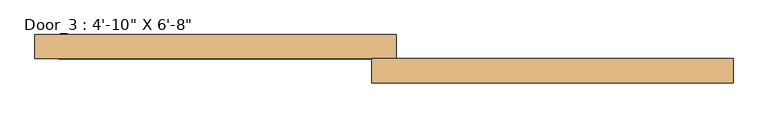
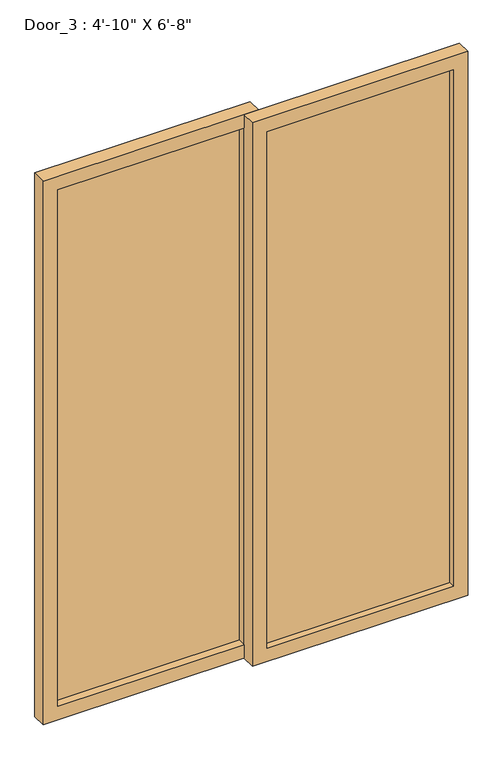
"""IFC4 building model written with IfcOpenShell, lengths in millimetres: door geometry."""

from ifc_helpers import new_model, si_unit, frame, origin, place, context, project, spatial, polyline, outline, extrude, source, transform, mapped, element, save


def door_902f0b21(model_context):
    return source(origin(), model_context, "Body", "SweptSolid", [
        extrude(outline(polyline([(2032.0, -25.4), (0.0, -25.4), (0.0, 736.6), (2032.0, 736.6), (2032.0, -25.4)]), holes=[polyline([(1981.2, 25.4), (1981.2, 685.8), (50.8, 685.8), (50.8, 25.4), (1981.2, 25.4)])]), frame((0.0, 82.55, 0.0), z_axis=(0.0, 1.0, 0.0), x_axis=(0.0, 0.0, 1.0)), (0.0, 0.0, 1.0), 50.8),
        extrude(outline(polyline([(2032.0, 25.4), (2032.0, -736.6), (0.0, -736.6), (0.0, 25.4), (2032.0, 25.4)]), holes=[polyline([(1981.2, -25.4), (50.8, -25.4), (50.8, -685.8), (1981.2, -685.8), (1981.2, -25.4)])]), frame((0.0, 133.35, 0.0), z_axis=(0.0, 1.0, 0.0), x_axis=(0.0, 0.0, 1.0)), (0.0, 0.0, 1.0), 50.8),
        extrude(outline(polyline([(25.4, 111.125), (685.8, 111.125), (685.8, 104.775), (25.4, 104.775), (25.4, 111.125)])), frame((0.0, 0.0, 50.8), z_axis=(0.0, 0.0, 1.0), x_axis=(1.0, 0.0, 0.0)), (0.0, 0.0, 1.0), 1930.4),
        extrude(outline(polyline([(-25.4, 161.925), (-685.8, 161.925), (-685.8, 174.625), (-25.4, 174.625), (-25.4, 161.925)])), frame((0.0, 0.0, 50.8), z_axis=(0.0, 0.0, 1.0), x_axis=(1.0, 0.0, 0.0)), (0.0, 0.0, 1.0), 1930.4),
    ])


if __name__ == "__main__":
    model = new_model("IFC4")
    model_context = context("Model", 3, world=origin())
    ifc_project = project(units=[si_unit("LENGTHUNIT", "METRE", prefix="MILLI")], contexts=[model_context])
    site = spatial("IfcSite", under=ifc_project)
    building = spatial("IfcBuilding", under=site)
    placement = place(None, origin())
    door_shape = door_902f0b21(model_context)
    element("IfcDoor", 1, ObjectType="Door_3 : 4'-10\" X 6'-8\"", at=placement, inside=building, context=model_context, shape_type="MappedRepresentation", body=[
        mapped(door_shape, transform((0.0, 0.0, 0.0), x_axis=(1.0, 0.0, 0.0), y_axis=(0.0, 1.0, 0.0), z_axis=(0.0, 0.0, 1.0))),
    ])
    save(model, "model.ifc")
